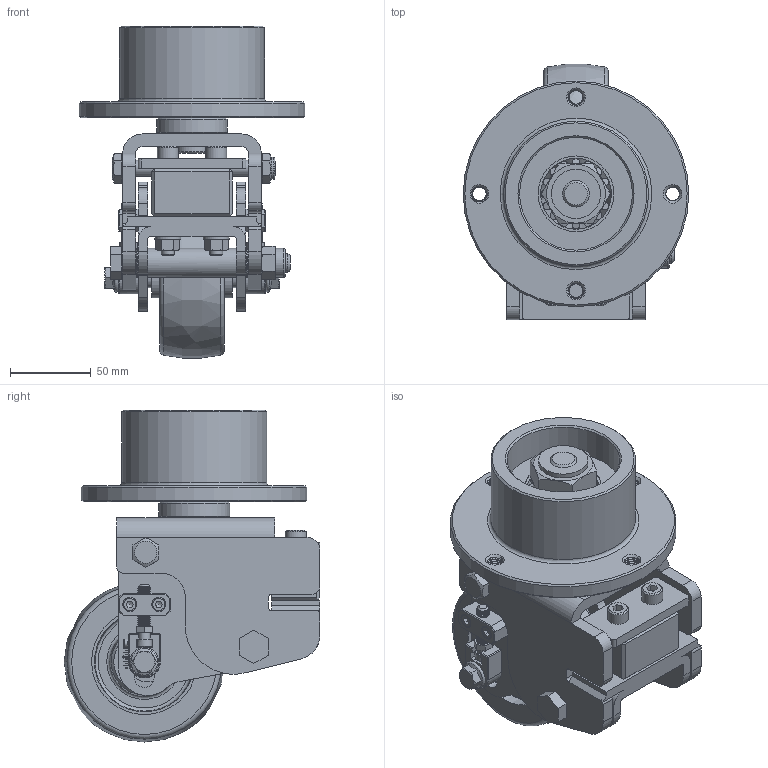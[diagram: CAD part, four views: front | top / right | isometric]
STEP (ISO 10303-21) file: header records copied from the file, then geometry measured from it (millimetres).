
FILE_DESCRIPTION(/* description */ (''),/* implementation_level */ '2;1');
FILE_NAME(/* name */ '70B01_4_F.stp',/* time_stamp */ '2022-10-17T14:56:44+08:00',/* author */ (''),/* organization */ (''),/* preprocessor_version */ 'ST-DEVELOPER v14',/* originating_system */ 'SIEMENS PLM Software NX 8.0',/* authorisation */ '');
FILE_SCHEMA (('AUTOMOTIVE_DESIGN { 1 0 10303 214 3 1 1 1 }'));
Products named in the file (1): 70B01_4_F
Bounding box: 140 x 158.7 x 206.06 mm (x, y, z)
Volume: 5929.8 mm3; surface area: 243405.7 mm2
Topology: 18 solids, 19 shells, 1115 faces, 2905 edges, 1873 vertices
Faces by surface type: plane 612, cylinder 245, cone 156, torus 37, bspline 33, extrusion 32
Full cylindrical faces by diameter (mm): 4.132 x6, 4.134 x6, 5 x6, 5.5 x4, 6 x2, 6.8 x2, 7 x2, 8 x4, 8.374 x1, 8.4 x2, 8.5 x13, 8.8 x4, 9 x2, 10 x2, 10.3 x2, 11.701 x2, 12.1 x4, 12.2 x2, 13 x3, 13.762 x1, 15 x2, 15.5 x1, 16 x2, 16.5 x1, 16.63 x1, 17 x1, 18 x3, 18.2 x1, 20 x1, 25 x4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
Entity records: 45798 total; most frequent: CARTESIAN_POINT 20623, ORIENTED_EDGE 5110, DIRECTION 4905, EDGE_CURVE 2555, AXIS2_PLACEMENT_3D 1894, VERTEX_POINT 1749, EDGE_LOOP 1492, VECTOR 1117
